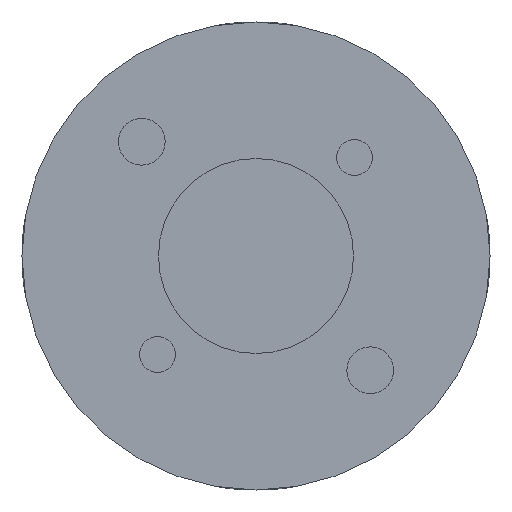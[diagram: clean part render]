
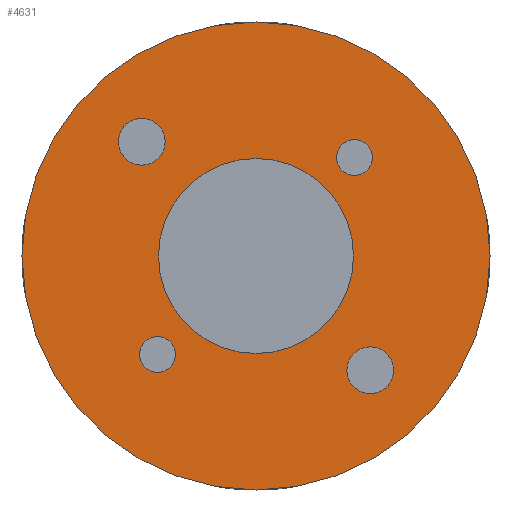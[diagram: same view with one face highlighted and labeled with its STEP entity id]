
A CAD part, front view. The second image highlights one B-rep face of the part: STEP entity #4631.
In plain terms, the highlighted planar face has unit normal (0, -1, 0).
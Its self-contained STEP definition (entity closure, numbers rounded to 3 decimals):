
#43 = AXIS2_PLACEMENT_3D ( 'NONE', #2237, #4596, #399 ) ;
#58 = AXIS2_PLACEMENT_3D ( 'NONE', #4152, #3324, #5206 ) ;
#83 = VERTEX_POINT ( 'NONE', #4434 ) ;
#153 = CIRCLE ( 'NONE', #5652, 8.75 ) ;
#202 = CARTESIAN_POINT ( 'NONE',  ( -10.253, 0., 12.353 ) ) ;
#234 = EDGE_CURVE ( 'NONE', #3170, #1031, #3392, .T. ) ;
#249 = VERTEX_POINT ( 'NONE', #1516 ) ;
#263 = DIRECTION ( 'NONE',  ( 0., 0., -1. ) ) ;
#399 = DIRECTION ( 'NONE',  ( 0., 0., -1. ) ) ;
#487 = VERTEX_POINT ( 'NONE', #1270 ) ;
#492 = CARTESIAN_POINT ( 'NONE',  ( 0., 0., 21. ) ) ;
#500 = EDGE_LOOP ( 'NONE', ( #3348, #5474 ) ) ;
#505 = DIRECTION ( 'NONE',  ( 0., 0., -1. ) ) ;
#531 = CARTESIAN_POINT ( 'NONE',  ( 0., 0., 0. ) ) ;
#598 = DIRECTION ( 'NONE',  ( 0., 0., -1. ) ) ;
#645 = CARTESIAN_POINT ( 'NONE',  ( 0., 0., -8.75 ) ) ;
#647 = CIRCLE ( 'NONE', #4456, 21. ) ;
#761 = ORIENTED_EDGE ( 'NONE', *, *, #5940, .T. ) ;
#850 = AXIS2_PLACEMENT_3D ( 'NONE', #531, #3746, #505 ) ;
#869 = AXIS2_PLACEMENT_3D ( 'NONE', #5726, #5673, #1475 ) ;
#882 = ORIENTED_EDGE ( 'NONE', *, *, #3149, .F. ) ;
#917 = DIRECTION ( 'NONE',  ( 0., -1., 0. ) ) ;
#943 = ORIENTED_EDGE ( 'NONE', *, *, #5157, .F. ) ;
#946 = FACE_BOUND ( 'NONE', #500, .T. ) ;
#950 = DIRECTION ( 'NONE',  ( 0., 0., -1. ) ) ;
#1001 = ORIENTED_EDGE ( 'NONE', *, *, #4704, .F. ) ;
#1031 = VERTEX_POINT ( 'NONE', #1473 ) ;
#1048 = EDGE_CURVE ( 'NONE', #5103, #2233, #3202, .T. ) ;
#1055 = CIRCLE ( 'NONE', #4471, 2.1 ) ;
#1068 = DIRECTION ( 'NONE',  ( 0., 0., -1. ) ) ;
#1138 = AXIS2_PLACEMENT_3D ( 'NONE', #5117, #917, #2774 ) ;
#1270 = CARTESIAN_POINT ( 'NONE',  ( 8.839, 0., 7.239 ) ) ;
#1405 = FACE_BOUND ( 'NONE', #5042, .T. ) ;
#1471 = PLANE ( 'NONE',  #58 ) ;
#1473 = CARTESIAN_POINT ( 'NONE',  ( -10.253, 0., 8.153 ) ) ;
#1475 = DIRECTION ( 'NONE',  ( 0., 0., -1. ) ) ;
#1487 = CARTESIAN_POINT ( 'NONE',  ( 0., 0., 8.75 ) ) ;
#1516 = CARTESIAN_POINT ( 'NONE',  ( 10.253, 0., -8.153 ) ) ;
#1599 = DIRECTION ( 'NONE',  ( 0., -1., 0. ) ) ;
#1646 = EDGE_LOOP ( 'NONE', ( #3991, #761 ) ) ;
#1660 = ORIENTED_EDGE ( 'NONE', *, *, #3042, .F. ) ;
#1820 = CIRCLE ( 'NONE', #1138, 1.6 ) ;
#1997 = DIRECTION ( 'NONE',  ( 0., 0., -1. ) ) ;
#2011 = EDGE_CURVE ( 'NONE', #5920, #4835, #4484, .T. ) ;
#2121 = DIRECTION ( 'NONE',  ( 0., 0., -1. ) ) ;
#2126 = EDGE_LOOP ( 'NONE', ( #1660, #882 ) ) ;
#2139 = DIRECTION ( 'NONE',  ( 0., -1., 0. ) ) ;
#2227 = EDGE_CURVE ( 'NONE', #83, #249, #2620, .T. ) ;
#2233 = VERTEX_POINT ( 'NONE', #5189 ) ;
#2237 = CARTESIAN_POINT ( 'NONE',  ( 10.253, 0., -10.253 ) ) ;
#2351 = VERTEX_POINT ( 'NONE', #3223 ) ;
#2383 = CARTESIAN_POINT ( 'NONE',  ( 0., 0., 0. ) ) ;
#2390 = CARTESIAN_POINT ( 'NONE',  ( 10.253, 0., -10.253 ) ) ;
#2547 = CARTESIAN_POINT ( 'NONE',  ( -10.253, 0., 10.253 ) ) ;
#2620 = CIRCLE ( 'NONE', #3006, 2.1 ) ;
#2774 = DIRECTION ( 'NONE',  ( 0., 0., -1. ) ) ;
#2803 = FACE_BOUND ( 'NONE', #4422, .T. ) ;
#2814 = AXIS2_PLACEMENT_3D ( 'NONE', #3822, #5234, #2894 ) ;
#2818 = ORIENTED_EDGE ( 'NONE', *, *, #5866, .F. ) ;
#2894 = DIRECTION ( 'NONE',  ( 0., 0., -1. ) ) ;
#2972 = AXIS2_PLACEMENT_3D ( 'NONE', #4925, #2139, #263 ) ;
#3006 = AXIS2_PLACEMENT_3D ( 'NONE', #2390, #4813, #1997 ) ;
#3042 = EDGE_CURVE ( 'NONE', #487, #2351, #4153, .T. ) ;
#3077 = DIRECTION ( 'NONE',  ( 0., -1., 0. ) ) ;
#3149 = EDGE_CURVE ( 'NONE', #2351, #487, #5923, .T. ) ;
#3170 = VERTEX_POINT ( 'NONE', #202 ) ;
#3202 = CIRCLE ( 'NONE', #2814, 1.6 ) ;
#3223 = CARTESIAN_POINT ( 'NONE',  ( 8.839, 0., 10.439 ) ) ;
#3258 = FACE_BOUND ( 'NONE', #2126, .T. ) ;
#3304 = DIRECTION ( 'NONE',  ( 0., 0., -1. ) ) ;
#3324 = DIRECTION ( 'NONE',  ( 0., -1., 0. ) ) ;
#3348 = ORIENTED_EDGE ( 'NONE', *, *, #2227, .F. ) ;
#3371 = CARTESIAN_POINT ( 'NONE',  ( -10.253, 0., 10.253 ) ) ;
#3392 = CIRCLE ( 'NONE', #4175, 2.1 ) ;
#3438 = VERTEX_POINT ( 'NONE', #645 ) ;
#3439 = CARTESIAN_POINT ( 'NONE',  ( 0., 0., 0. ) ) ;
#3534 = EDGE_CURVE ( 'NONE', #249, #83, #5244, .T. ) ;
#3685 = CIRCLE ( 'NONE', #850, 8.75 ) ;
#3746 = DIRECTION ( 'NONE',  ( 0., -1., 0. ) ) ;
#3788 = FACE_BOUND ( 'NONE', #5915, .T. ) ;
#3822 = CARTESIAN_POINT ( 'NONE',  ( -8.839, 0., -8.839 ) ) ;
#3991 = ORIENTED_EDGE ( 'NONE', *, *, #2011, .T. ) ;
#4048 = CARTESIAN_POINT ( 'NONE',  ( 0., 0., -21. ) ) ;
#4089 = ORIENTED_EDGE ( 'NONE', *, *, #1048, .F. ) ;
#4152 = CARTESIAN_POINT ( 'NONE',  ( 0., 0., 0. ) ) ;
#4153 = CIRCLE ( 'NONE', #4937, 1.6 ) ;
#4175 = AXIS2_PLACEMENT_3D ( 'NONE', #2547, #1599, #2121 ) ;
#4244 = ORIENTED_EDGE ( 'NONE', *, *, #234, .F. ) ;
#4422 = EDGE_LOOP ( 'NONE', ( #943, #4244 ) ) ;
#4434 = CARTESIAN_POINT ( 'NONE',  ( 10.253, 0., -12.353 ) ) ;
#4456 = AXIS2_PLACEMENT_3D ( 'NONE', #2383, #5269, #950 ) ;
#4471 = AXIS2_PLACEMENT_3D ( 'NONE', #3371, #3077, #598 ) ;
#4484 = CIRCLE ( 'NONE', #869, 21. ) ;
#4596 = DIRECTION ( 'NONE',  ( 0., -1., 0. ) ) ;
#4631 = ADVANCED_FACE ( 'NONE', ( #1405, #3788, #3258, #946, #2803, #5668 ), #1471, .T. ) ;
#4704 = EDGE_CURVE ( 'NONE', #5140, #3438, #153, .T. ) ;
#4802 = DIRECTION ( 'NONE',  ( 0., -1., 0. ) ) ;
#4813 = DIRECTION ( 'NONE',  ( 0., -1., 0. ) ) ;
#4835 = VERTEX_POINT ( 'NONE', #4048 ) ;
#4925 = CARTESIAN_POINT ( 'NONE',  ( 8.839, 0., 8.839 ) ) ;
#4935 = ORIENTED_EDGE ( 'NONE', *, *, #5087, .F. ) ;
#4937 = AXIS2_PLACEMENT_3D ( 'NONE', #5678, #5644, #3304 ) ;
#5042 = EDGE_LOOP ( 'NONE', ( #4935, #1001 ) ) ;
#5087 = EDGE_CURVE ( 'NONE', #3438, #5140, #3685, .T. ) ;
#5103 = VERTEX_POINT ( 'NONE', #5168 ) ;
#5117 = CARTESIAN_POINT ( 'NONE',  ( -8.839, 0., -8.839 ) ) ;
#5140 = VERTEX_POINT ( 'NONE', #1487 ) ;
#5157 = EDGE_CURVE ( 'NONE', #1031, #3170, #1055, .T. ) ;
#5168 = CARTESIAN_POINT ( 'NONE',  ( -8.839, 0., -10.439 ) ) ;
#5189 = CARTESIAN_POINT ( 'NONE',  ( -8.839, 0., -7.239 ) ) ;
#5206 = DIRECTION ( 'NONE',  ( 0., 0., -1. ) ) ;
#5234 = DIRECTION ( 'NONE',  ( 0., -1., 0. ) ) ;
#5244 = CIRCLE ( 'NONE', #43, 2.1 ) ;
#5269 = DIRECTION ( 'NONE',  ( 0., -1., 0. ) ) ;
#5474 = ORIENTED_EDGE ( 'NONE', *, *, #3534, .F. ) ;
#5644 = DIRECTION ( 'NONE',  ( 0., -1., 0. ) ) ;
#5652 = AXIS2_PLACEMENT_3D ( 'NONE', #3439, #4802, #1068 ) ;
#5668 = FACE_OUTER_BOUND ( 'NONE', #1646, .T. ) ;
#5673 = DIRECTION ( 'NONE',  ( 0., -1., 0. ) ) ;
#5678 = CARTESIAN_POINT ( 'NONE',  ( 8.839, 0., 8.839 ) ) ;
#5726 = CARTESIAN_POINT ( 'NONE',  ( 0., 0., 0. ) ) ;
#5866 = EDGE_CURVE ( 'NONE', #2233, #5103, #1820, .T. ) ;
#5915 = EDGE_LOOP ( 'NONE', ( #4089, #2818 ) ) ;
#5920 = VERTEX_POINT ( 'NONE', #492 ) ;
#5923 = CIRCLE ( 'NONE', #2972, 1.6 ) ;
#5940 = EDGE_CURVE ( 'NONE', #4835, #5920, #647, .T. ) ;
